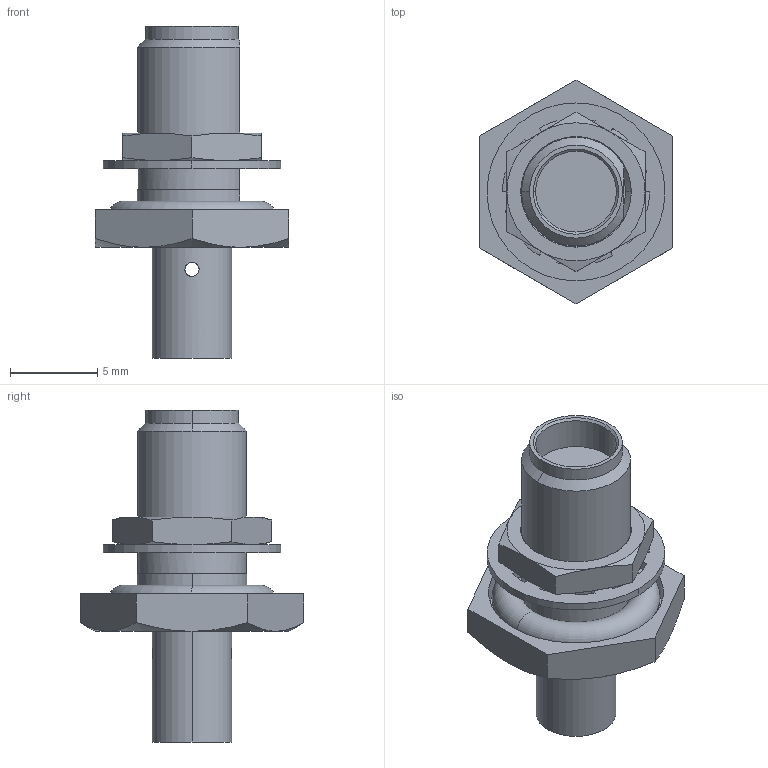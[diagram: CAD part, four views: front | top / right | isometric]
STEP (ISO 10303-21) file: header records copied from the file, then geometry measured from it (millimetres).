
FILE_DESCRIPTION (( 'STEP AP214' ), '1' );
FILE_NAME ('2942-6045.STEP', '2015-10-06T12:34:58', ( '' ), ( '' ), 'SwSTEP 2.0', 'SolidWorks 2015', '' );
FILE_SCHEMA (( 'AUTOMOTIVE_DESIGN' ));
Length unit declared in the file: inch
Products named in the file (1): 2942-6045
Bounding box: 11.11 x 12.83 x 19.05 mm (x, y, z)
Volume: 549.2 mm3; surface area: 1092.5 mm2
Topology: 2 solids, 2 shells, 128 faces, 369 edges, 226 vertices
Faces by surface type: plane 50, cylinder 46, cone 28, torus 4
Entity records: 6070 total; most frequent: CARTESIAN_POINT 954, ORIENTED_EDGE 738, DIRECTION 718, EDGE_CURVE 369, AXIS2_PLACEMENT_3D 270, VERTEX_POINT 226, VECTOR 178, LINE 178
